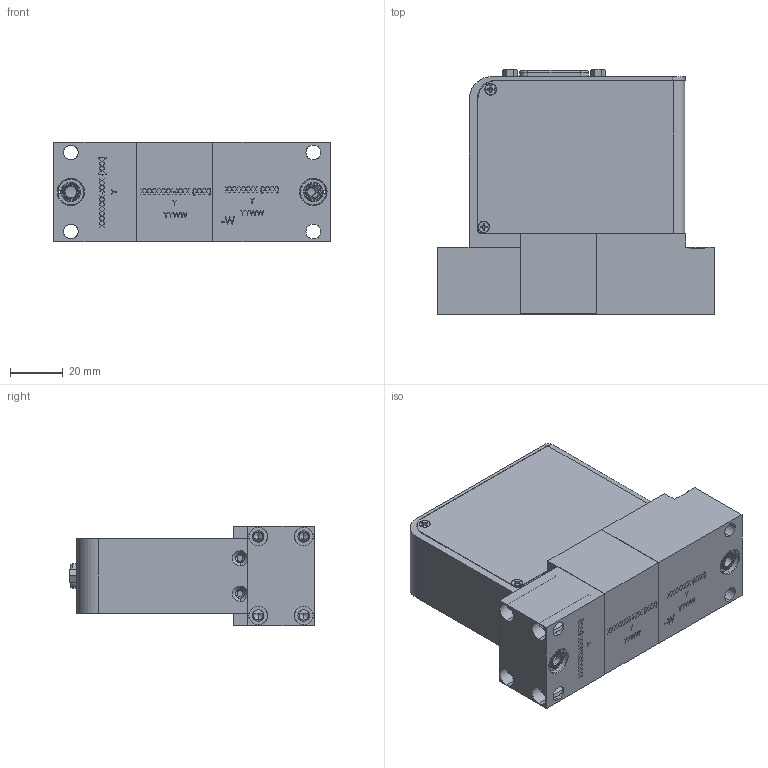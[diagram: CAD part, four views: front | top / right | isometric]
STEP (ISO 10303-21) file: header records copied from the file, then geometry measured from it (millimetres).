
FILE_DESCRIPTION (( 'STEP AP203' ), '1' );
FILE_NAME ('GF120XHT-BX-FLOW_MODULE.STEP', '2023-11-10T14:39:15', ( '' ), ( '' ), 'SwSTEP 2.0', 'SolidWorks 2020', '' );
FILE_SCHEMA (( 'CONFIG_CONTROL_DESIGN' ));
Length unit declared in the file: inch
Products named in the file (1): GF120XHT-BX-FLOW_MODULE
Bounding box: 104.95 x 92.91 x 37.59 mm (x, y, z)
Volume: 67697.1 mm3; surface area: 65589.1 mm2
Topology: 15 solids, 15 shells, 1637 faces, 4457 edges, 2936 vertices
Faces by surface type: plane 960, cylinder 347, cone 195, bspline 105, torus 30
Entity records: 64084 total; most frequent: CARTESIAN_POINT 23659, ORIENTED_EDGE 8854, DIRECTION 7633, EDGE_CURVE 4427, VERTEX_POINT 2936, LINE 2795, VECTOR 2795, AXIS2_PLACEMENT_3D 2419
